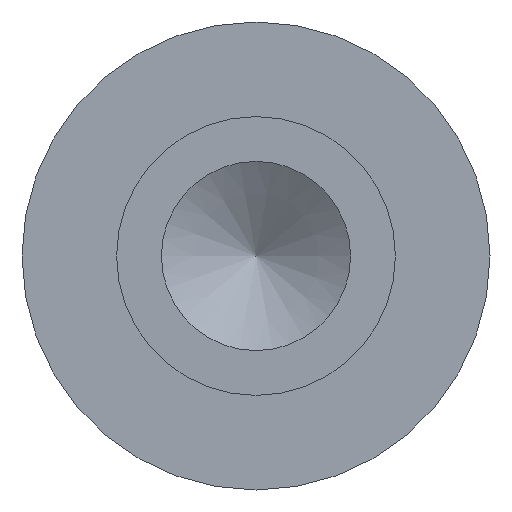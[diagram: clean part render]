
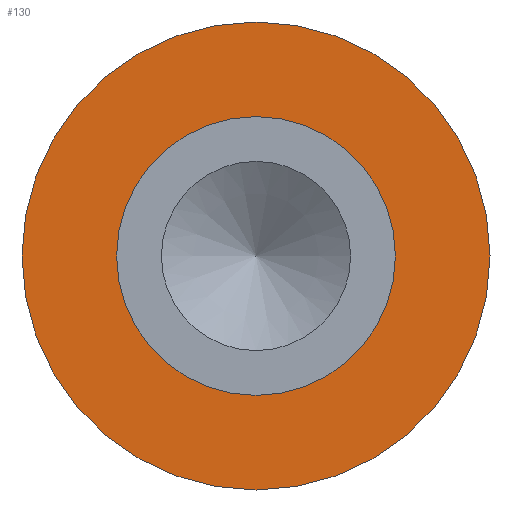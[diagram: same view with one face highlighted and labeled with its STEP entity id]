
A CAD part, left-side view. The second image highlights one B-rep face of the part: STEP entity #130.
In plain terms, the highlighted planar face has unit normal (-1, 0, 0).
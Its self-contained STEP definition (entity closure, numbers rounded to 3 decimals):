
#14=PLANE($,#153);
#24=FACE_BOUND($,#57,.T.);
#40=FACE_OUTER_BOUND($,#56,.T.);
#56=EDGE_LOOP($,(#111));
#57=EDGE_LOOP($,(#112));
#71=CIRCLE($,#147,2.388);
#73=CIRCLE($,#151,1.422);
#82=VERTEX_POINT($,#223);
#84=VERTEX_POINT($,#229);
#93=EDGE_CURVE($,#82,#82,#71,.T.);
#95=EDGE_CURVE($,#84,#84,#73,.T.);
#111=ORIENTED_EDGE($,*,*,#93,.F.);
#112=ORIENTED_EDGE($,*,*,#95,.T.);
#130=ADVANCED_FACE($,(#40,#24),#14,.T.);
#147=AXIS2_PLACEMENT_3D($,#224,#180,#181);
#151=AXIS2_PLACEMENT_3D($,#230,#188,#189);
#153=AXIS2_PLACEMENT_3D($,#233,#192,#193);
#180=DIRECTION('center_axis',(1.,0.,0.));
#181=DIRECTION('ref_axis',(0.,1.,0.));
#188=DIRECTION('center_axis',(1.,0.,0.));
#189=DIRECTION('ref_axis',(0.,1.,0.));
#192=DIRECTION('center_axis',(-1.,0.,0.));
#193=DIRECTION('ref_axis',(0.,0.,1.));
#223=CARTESIAN_POINT('',(1.981,2.388,0.));
#224=CARTESIAN_POINT('Origin',(1.981,0.,0.));
#229=CARTESIAN_POINT('',(1.981,1.422,0.));
#230=CARTESIAN_POINT('Origin',(1.981,0.,0.));
#233=CARTESIAN_POINT('Origin',(1.981,1.905,0.));
